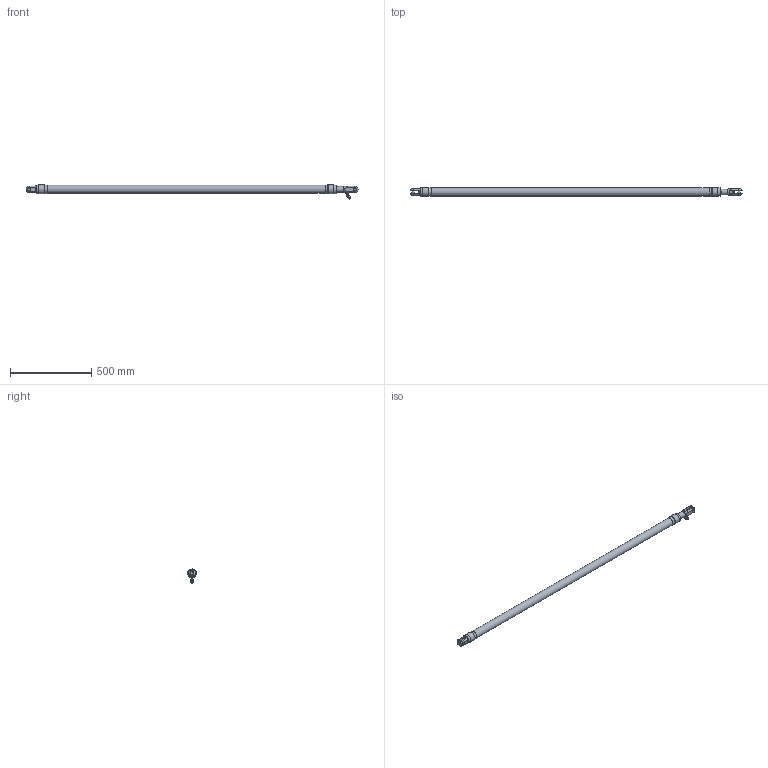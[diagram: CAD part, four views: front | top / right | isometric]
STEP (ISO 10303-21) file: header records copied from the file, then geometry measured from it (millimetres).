
FILE_DESCRIPTION(/* description */ (''),/* implementation_level */ '2;1');
FILE_NAME(/* name */ 'Q:\AA BRAND HYDRAULICS\HYDRAULICS FAMILY DIRECTORY\HYDRAULICS\CYLINDERS\VANGS\ALUMINIUM SINGLE ACTING - STAINLESS ON REQUEST (-0010 To -0150)\VSA-0012-S250-NP-71-L2000\VSA-0012-S250-NP-71-L2000 (Closed).stp',/* time_stamp */ '2018-04-09T10:41:19+01:00',/* author */ ('Lorena'),/* organization */ (''),/* preprocessor_version */ 'ST-DEVELOPER v17',/* originating_system */ 'Autodesk Inventor 2018',/* authorisation */ '');
FILE_SCHEMA (('AUTOMOTIVE_DESIGN { 1 0 10303 214 3 1 1 }'));
Length unit declared in the file: millimetre
Products named in the file (1): VSA-0012-S250-NP-71-L2000 (Closed)
Bounding box: 2043.15 x 53.8 x 86.79 mm (x, y, z)
Volume: 3959660.7 mm3; surface area: 333686.7 mm2
Topology: 2 solids, 4 shells, 1631 faces, 4617 edges, 3063 vertices
Faces by surface type: plane 925, bspline 467, cone 157, cylinder 74, torus 4, sphere 4
Full cylindrical faces by diameter (mm): 2.5 x1, 3.5 x1, 4.4 x1, 5 x4, 7.728 x1, 8.728 x1, 8.8 x3, 9.728 x2, 11.11 x1, 11.8 x2, 12 x3, 12.5 x1, 13 x1, 15.1 x3, 15.88 x2, 17 x1, 19.85 x2, 35 x1, 50.8 x1, 51.8 x1, 53.8 x3
Entity records: 60298 total; most frequent: CARTESIAN_POINT 19770, ORIENTED_EDGE 9226, DIRECTION 6276, EDGE_CURVE 4613, VERTEX_POINT 3066, LINE 2714, VECTOR 2714, AXIS2_PLACEMENT_3D 1781
